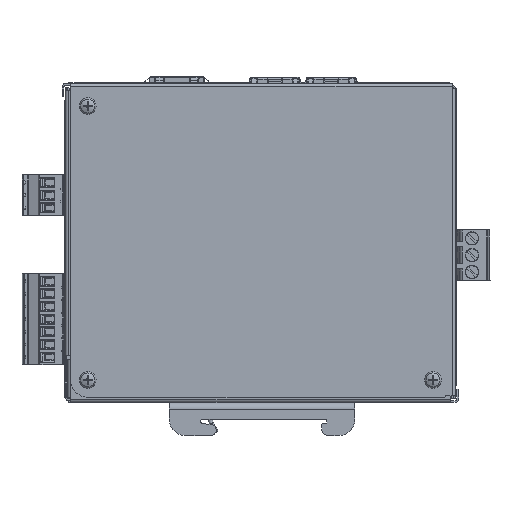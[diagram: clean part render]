
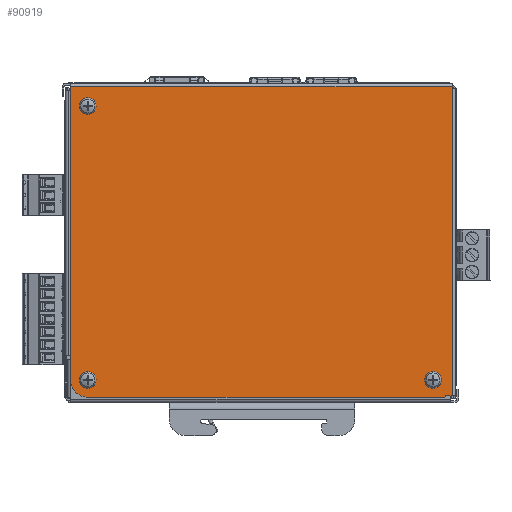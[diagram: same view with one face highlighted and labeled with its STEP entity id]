
A CAD part, front view. The second image highlights one B-rep face of the part: STEP entity #90919.
In plain terms, the highlighted planar face has unit normal (0, -1, 0).
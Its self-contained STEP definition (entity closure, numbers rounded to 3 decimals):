
#3316=FACE_BOUND('',#31600,.T.);
#3317=FACE_BOUND('',#31601,.T.);
#3318=FACE_BOUND('',#31602,.T.);
#3729=PLANE('',#95741);
#6841=LINE('',#129787,#16521);
#6842=LINE('',#129789,#16522);
#6843=LINE('',#129793,#16523);
#6844=LINE('',#129795,#16524);
#6845=LINE('',#129797,#16525);
#6846=LINE('',#129799,#16526);
#6847=LINE('',#129800,#16527);
#16521=VECTOR('',#104097,10.);
#16522=VECTOR('',#104098,10.);
#16523=VECTOR('',#104101,10.);
#16524=VECTOR('',#104102,10.);
#16525=VECTOR('',#104103,10.);
#16526=VECTOR('',#104104,10.);
#16527=VECTOR('',#104105,10.);
#27104=FACE_OUTER_BOUND('',#31599,.T.);
#31599=EDGE_LOOP('',(#64512,#64513,#64514,#64515,#64516,#64517,#64518,#64519,
#64520));
#31600=EDGE_LOOP('',(#64521));
#31601=EDGE_LOOP('',(#64522));
#31602=EDGE_LOOP('',(#64523));
#36398=CIRCLE('',#95638,2.5);
#36437=CIRCLE('',#95709,2.5);
#36444=CIRCLE('',#95742,5.2);
#36445=CIRCLE('',#95743,0.5);
#36446=CIRCLE('',#95744,2.5);
#39422=VERTEX_POINT('',#129222);
#39480=VERTEX_POINT('',#129574);
#39529=VERTEX_POINT('',#129783);
#39530=VERTEX_POINT('',#129784);
#39531=VERTEX_POINT('',#129786);
#39532=VERTEX_POINT('',#129788);
#39533=VERTEX_POINT('',#129790);
#39534=VERTEX_POINT('',#129792);
#39535=VERTEX_POINT('',#129794);
#39536=VERTEX_POINT('',#129796);
#39537=VERTEX_POINT('',#129798);
#39538=VERTEX_POINT('',#129801);
#49949=EDGE_CURVE('',#39422,#39422,#36398,.T.);
#50035=EDGE_CURVE('',#39480,#39480,#36437,.T.);
#50101=EDGE_CURVE('',#39529,#39530,#36444,.T.);
#50102=EDGE_CURVE('',#39529,#39531,#6841,.T.);
#50103=EDGE_CURVE('',#39531,#39532,#6842,.T.);
#50104=EDGE_CURVE('',#39533,#39532,#36445,.T.);
#50105=EDGE_CURVE('',#39533,#39534,#6843,.T.);
#50106=EDGE_CURVE('',#39534,#39535,#6844,.T.);
#50107=EDGE_CURVE('',#39535,#39536,#6845,.T.);
#50108=EDGE_CURVE('',#39536,#39537,#6846,.T.);
#50109=EDGE_CURVE('',#39537,#39530,#6847,.T.);
#50110=EDGE_CURVE('',#39538,#39538,#36446,.T.);
#64512=ORIENTED_EDGE('',*,*,#50101,.F.);
#64513=ORIENTED_EDGE('',*,*,#50102,.T.);
#64514=ORIENTED_EDGE('',*,*,#50103,.T.);
#64515=ORIENTED_EDGE('',*,*,#50104,.F.);
#64516=ORIENTED_EDGE('',*,*,#50105,.T.);
#64517=ORIENTED_EDGE('',*,*,#50106,.T.);
#64518=ORIENTED_EDGE('',*,*,#50107,.T.);
#64519=ORIENTED_EDGE('',*,*,#50108,.T.);
#64520=ORIENTED_EDGE('',*,*,#50109,.T.);
#64521=ORIENTED_EDGE('',*,*,#49949,.T.);
#64522=ORIENTED_EDGE('',*,*,#50035,.T.);
#64523=ORIENTED_EDGE('',*,*,#50110,.T.);
#90919=ADVANCED_FACE('',(#27104,#3316,#3317,#3318),#3729,.F.);
#95638=AXIS2_PLACEMENT_3D('',#129223,#103817,#103818);
#95709=AXIS2_PLACEMENT_3D('',#129575,#103982,#103983);
#95741=AXIS2_PLACEMENT_3D('',#129782,#104093,#104094);
#95742=AXIS2_PLACEMENT_3D('',#129785,#104095,#104096);
#95743=AXIS2_PLACEMENT_3D('',#129791,#104099,#104100);
#95744=AXIS2_PLACEMENT_3D('',#129802,#104106,#104107);
#103817=DIRECTION('center_axis',(0.,1.,0.));
#103818=DIRECTION('ref_axis',(0.,0.,
-1.));
#103982=DIRECTION('center_axis',(0.,1.,0.));
#103983=DIRECTION('ref_axis',(0.,0.,
-1.));
#104093=DIRECTION('center_axis',(0.,1.,0.));
#104094=DIRECTION('ref_axis',(1.,0.,0.));
#104095=DIRECTION('center_axis',(0.,1.,0.));
#104096=DIRECTION('ref_axis',(-0.707,0.,
-0.707));
#104097=DIRECTION('',(1.,0.,0.));
#104098=DIRECTION('',(0.707,0.,0.707));
#104099=DIRECTION('center_axis',(0.,-1.,0.));
#104100=DIRECTION('ref_axis',(-0.383,0.,0.924));
#104101=DIRECTION('',(1.,0.,0.));
#104102=DIRECTION('',(0.,0.,1.));
#104103=DIRECTION('',(0.,0.,1.));
#104104=DIRECTION('',(-1.,0.,0.));
#104105=DIRECTION('',(0.,0.,-1.));
#104106=DIRECTION('center_axis',(0.,1.,0.));
#104107=DIRECTION('ref_axis',(0.,0.,
-1.));
#129222=CARTESIAN_POINT('',(-51.2,-31.,-37.7));
#129223=CARTESIAN_POINT('Origin',(-51.2,-31.,-40.2));
#129574=CARTESIAN_POINT('',(52.8,-31.,-37.7));
#129575=CARTESIAN_POINT('Origin',(52.8,-31.,-40.2));
#129782=CARTESIAN_POINT('Origin',(0.35,-31.,1.6));
#129783=CARTESIAN_POINT('',(-51.2,-31.,-45.4));
#129784=CARTESIAN_POINT('',(-56.4,-31.,-40.2));
#129785=CARTESIAN_POINT('Origin',(-51.2,-31.,-40.2));
#129786=CARTESIAN_POINT('',(56.225,-31.,-45.4));
#129787=CARTESIAN_POINT('',(-29.275,-31.,-45.4));
#129788=CARTESIAN_POINT('',(56.454,-31.,-45.171));
#129789=CARTESIAN_POINT('',(54.006,-31.,-47.619));
#129790=CARTESIAN_POINT('',(56.807,-31.,-45.025));
#129791=CARTESIAN_POINT('Origin',(56.807,-31.,-45.525));
#129792=CARTESIAN_POINT('',(58.6,-31.,-45.025));
#129793=CARTESIAN_POINT('',(28.475,-31.,-45.025));
#129794=CARTESIAN_POINT('',(58.6,-31.,47.55));
#129795=CARTESIAN_POINT('',(58.6,-31.,25.35));
#129796=CARTESIAN_POINT('',(58.6,-31.,48.1));
#129797=CARTESIAN_POINT('',(58.6,-31.,25.35));
#129798=CARTESIAN_POINT('',(-56.4,-31.,48.1));
#129799=CARTESIAN_POINT('',(-29.275,-31.,48.1));
#129800=CARTESIAN_POINT('',(-56.4,-31.,25.35));
#129801=CARTESIAN_POINT('',(-51.2,-31.,44.8));
#129802=CARTESIAN_POINT('Origin',(-51.2,-31.,42.3));
